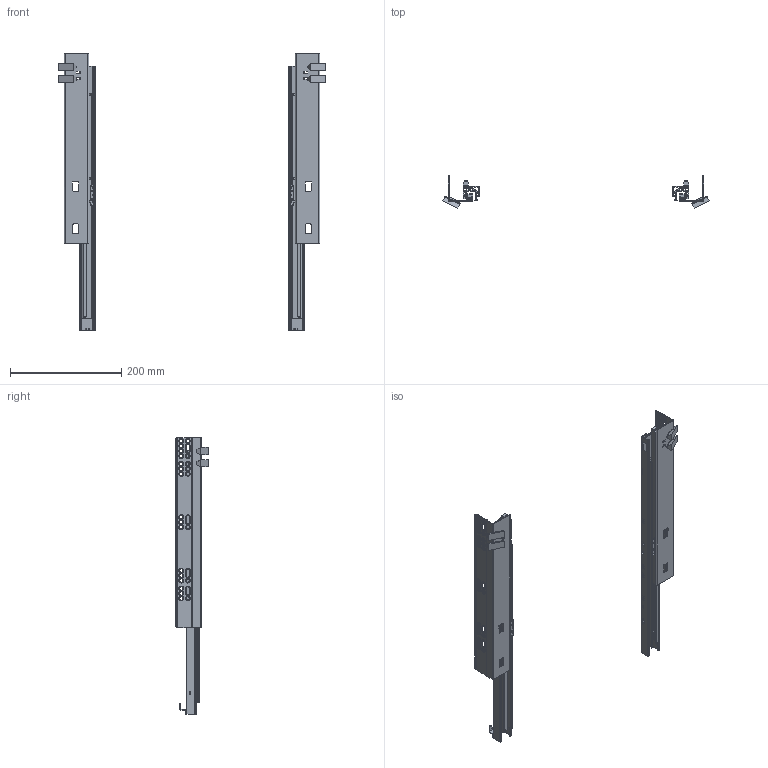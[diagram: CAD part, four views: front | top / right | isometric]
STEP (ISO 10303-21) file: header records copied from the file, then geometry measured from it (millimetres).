
FILE_DESCRIPTION (( 'STEP AP203' ), '1' );
FILE_NAME ('728MCFH(19)-490-TM 客人用图.STEP', '2021-02-24T06:12:31', ( '微软用户' ), ( '微软中国' ), 'SwSTEP 2.0', 'SolidWorks 2014', '' );
FILE_SCHEMA (( 'CONFIG_CONTROL_DESIGN' ));
Length unit declared in the file: millimetre
Products named in the file (17): 镜向728MCFH(16)-490-HDG-R 活动轨组件（右）客人用图; 728MCFH(16)-490-HDG-R 活动轨组件（右）客人用图; 镜向728CFH-500-R  中轨（右）客人参考用; 728CFH-500-R  中轨（右）客人参考用; 噩砃728 笢寢爾え; 728 笢寢爾え; 镜向728-2 活动轨挡位焊片（无把手有把手通用）; 728-2 活动轨挡位焊片（无把手有把手通用）; 728MCFH(19)-490-TM  客人用图; 728CFH(19)-500 固定轨（右）客人参考用; 镜向728CFH(19)-500 固定轨（右）客人参考用; 728MCFH（16）-490-HDG-R  活动轨（右） 客人用图; 镜向728MCFH（16）-490-HDG-R  活动轨（右） 客人用图; 镜向728CFH-500-ZG-R  中轨组件（右）客人参考用; 728CFH-500-ZG-R  中轨组件（右）客人参考用; 708-1 尾勾（常规三节轨用）; 镜向708-1 尾勾（常规三节轨用）
Assembly tree (16 placements, depth 3):
  728MCFH(19)-490-TM  客人用图
    728CFH(19)-500 固定轨（右）客人参考用
    728MCFH(16)-490-HDG-R 活动轨组件（右）客人用图
      728MCFH（16）-490-HDG-R  活动轨（右） 客人用图
      708-1 尾勾（常规三节轨用）
      728-2 活动轨挡位焊片（无把手有把手通用）
    728CFH-500-ZG-R  中轨组件（右）客人参考用
      728CFH-500-R  中轨（右）客人参考用
      728 笢寢爾え
    镜向728CFH(19)-500 固定轨（右）客人参考用
    镜向728MCFH(16)-490-HDG-R 活动轨组件（右）客人用图
      镜向728MCFH（16）-490-HDG-R  活动轨（右） 客人用图
      镜向708-1 尾勾（常规三节轨用）
      镜向728-2 活动轨挡位焊片（无把手有把手通用）
    镜向728CFH-500-ZG-R  中轨组件（右）客人参考用
      镜向728CFH-500-R  中轨（右）客人参考用
      噩砃728 笢寢爾え
Bounding box: 478.47 x 57.88 x 497.4 mm (x, y, z)
Volume: 278149.9 mm3; surface area: 394707.1 mm2
Topology: 16 solids, 16 shells, 1778 faces, 4530 edges, 2858 vertices
Faces by surface type: plane 840, cylinder 644, cone 252, bspline 38, torus 4
Entity records: 57479 total; most frequent: CARTESIAN_POINT 11459, DIRECTION 9528, ORIENTED_EDGE 9060, EDGE_CURVE 4530, AXIS2_PLACEMENT_3D 3377, VERTEX_POINT 2858, VECTOR 2774, LINE 2774
